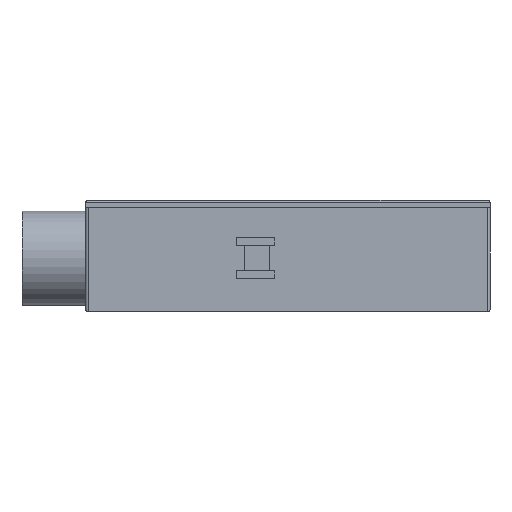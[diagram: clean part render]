
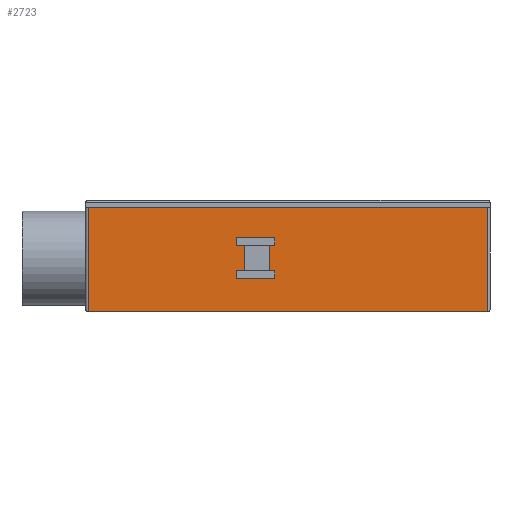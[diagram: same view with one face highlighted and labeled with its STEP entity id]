
A CAD part, left-side view. The second image highlights one B-rep face of the part: STEP entity #2723.
In plain terms, the highlighted planar face has unit normal (-1, 0, 0).
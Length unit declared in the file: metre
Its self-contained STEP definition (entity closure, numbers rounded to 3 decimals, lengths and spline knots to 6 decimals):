
#266=LINE('',#4233,#586);
#270=LINE('',#4241,#590);
#273=LINE('',#4248,#593);
#277=LINE('',#4256,#597);
#284=LINE('',#4271,#604);
#286=LINE('',#4274,#606);
#287=LINE('',#4277,#607);
#288=LINE('',#4279,#608);
#289=LINE('',#4281,#609);
#290=LINE('',#4282,#610);
#291=LINE('',#4284,#611);
#292=LINE('',#4285,#612);
#293=LINE('',#4287,#613);
#294=LINE('',#4288,#614);
#295=LINE('',#4289,#615);
#296=LINE('',#4291,#616);
#586=VECTOR('',#3424,1.);
#590=VECTOR('',#3428,1.);
#593=VECTOR('',#3433,1.);
#597=VECTOR('',#3437,1.);
#604=VECTOR('',#3446,1.);
#606=VECTOR('',#3450,1.);
#607=VECTOR('',#3451,1.);
#608=VECTOR('',#3452,1.);
#609=VECTOR('',#3453,1.);
#610=VECTOR('',#3454,1.);
#611=VECTOR('',#3455,1.);
#612=VECTOR('',#3456,1.);
#613=VECTOR('',#3457,1.);
#614=VECTOR('',#3458,1.);
#615=VECTOR('',#3459,1.);
#616=VECTOR('',#3460,1.);
#1180=ORIENTED_EDGE('',*,*,#1722,.T.);
#1181=ORIENTED_EDGE('',*,*,#1723,.T.);
#1182=ORIENTED_EDGE('',*,*,#1724,.F.);
#1183=ORIENTED_EDGE('',*,*,#1725,.T.);
#1184=ORIENTED_EDGE('',*,*,#1726,.F.);
#1185=ORIENTED_EDGE('',*,*,#1706,.T.);
#1186=ORIENTED_EDGE('',*,*,#1727,.T.);
#1187=ORIENTED_EDGE('',*,*,#1709,.T.);
#1188=ORIENTED_EDGE('',*,*,#1720,.T.);
#1189=ORIENTED_EDGE('',*,*,#1728,.F.);
#1190=ORIENTED_EDGE('',*,*,#1729,.F.);
#1191=ORIENTED_EDGE('',*,*,#1713,.T.);
#1192=ORIENTED_EDGE('',*,*,#1730,.F.);
#1193=ORIENTED_EDGE('',*,*,#1702,.T.);
#1194=ORIENTED_EDGE('',*,*,#1731,.T.);
#1195=ORIENTED_EDGE('',*,*,#1732,.F.);
#1702=EDGE_CURVE('',#2012,#2011,#266,.T.);
#1706=EDGE_CURVE('',#2009,#2015,#270,.T.);
#1709=EDGE_CURVE('',#2019,#2018,#273,.T.);
#1713=EDGE_CURVE('',#2023,#2022,#277,.T.);
#1720=EDGE_CURVE('',#2018,#2029,#284,.T.);
#1722=EDGE_CURVE('',#2030,#2031,#286,.T.);
#1723=EDGE_CURVE('',#2031,#2032,#287,.F.);
#1724=EDGE_CURVE('',#2033,#2032,#288,.T.);
#1725=EDGE_CURVE('',#2033,#2030,#289,.T.);
#1726=EDGE_CURVE('',#2009,#2034,#290,.T.);
#1727=EDGE_CURVE('',#2015,#2019,#291,.T.);
#1728=EDGE_CURVE('',#2035,#2029,#292,.T.);
#1729=EDGE_CURVE('',#2023,#2035,#293,.T.);
#1730=EDGE_CURVE('',#2012,#2022,#294,.T.);
#1731=EDGE_CURVE('',#2011,#2036,#295,.T.);
#1732=EDGE_CURVE('',#2034,#2036,#296,.T.);
#2009=VERTEX_POINT('',#4228);
#2011=VERTEX_POINT('',#4232);
#2012=VERTEX_POINT('',#4234);
#2015=VERTEX_POINT('',#4240);
#2018=VERTEX_POINT('',#4247);
#2019=VERTEX_POINT('',#4249);
#2022=VERTEX_POINT('',#4255);
#2023=VERTEX_POINT('',#4257);
#2029=VERTEX_POINT('',#4270);
#2030=VERTEX_POINT('',#4275);
#2031=VERTEX_POINT('',#4276);
#2032=VERTEX_POINT('',#4278);
#2033=VERTEX_POINT('',#4280);
#2034=VERTEX_POINT('',#4283);
#2035=VERTEX_POINT('',#4286);
#2036=VERTEX_POINT('',#4290);
#2264=EDGE_LOOP('',(#1180,#1181,#1182,#1183));
#2265=EDGE_LOOP('',(#1184,#1185,#1186,#1187,#1188,#1189,#1190,#1191,#1192,
#1193,#1194,#1195));
#2448=FACE_BOUND('',#2264,.T.);
#2449=FACE_BOUND('',#2265,.T.);
#2599=PLANE('',#2917);
#2723=ADVANCED_FACE('',(#2448,#2449),#2599,.F.);
#2917=AXIS2_PLACEMENT_3D('',#4273,#3448,#3449);
#3424=DIRECTION('',(0.,1.,0.));
#3428=DIRECTION('',(0.,1.,0.));
#3433=DIRECTION('',(0.,-1.,0.));
#3437=DIRECTION('',(0.,-1.,0.));
#3446=DIRECTION('',(0.,0.,-1.));
#3448=DIRECTION('',(1.,0.,0.));
#3449=DIRECTION('',(0.,0.,-1.));
#3450=DIRECTION('',(0.,-1.,0.));
#3451=DIRECTION('',(0.,0.,-1.));
#3452=DIRECTION('',(0.,-1.,0.));
#3453=DIRECTION('',(0.,0.,-1.));
#3454=DIRECTION('',(0.,0.,1.));
#3455=DIRECTION('',(0.,0.,-1.));
#3456=DIRECTION('',(0.,-1.,0.));
#3457=DIRECTION('',(0.,0.,-1.));
#3458=DIRECTION('',(0.,0.,-1.));
#3459=DIRECTION('',(0.,0.,1.));
#3460=DIRECTION('',(0.,1.,0.));
#4228=CARTESIAN_POINT('',(-0.043277,0.039957,0.025204));
#4232=CARTESIAN_POINT('',(-0.043277,0.054957,0.025204));
#4233=CARTESIAN_POINT('',(-0.043277,0.047457,0.025204));
#4234=CARTESIAN_POINT('',(-0.043277,0.051914,0.025204));
#4240=CARTESIAN_POINT('',(-0.043277,0.041914,0.025204));
#4241=CARTESIAN_POINT('',(-0.043277,0.047457,0.025204));
#4247=CARTESIAN_POINT('',(-0.043277,0.039957,0.015204));
#4248=CARTESIAN_POINT('',(-0.043277,0.047457,0.015204));
#4249=CARTESIAN_POINT('',(-0.043277,0.041914,0.015204));
#4255=CARTESIAN_POINT('',(-0.043277,0.051914,0.015204));
#4256=CARTESIAN_POINT('',(-0.043277,0.047457,0.015204));
#4257=CARTESIAN_POINT('',(-0.043277,0.054957,0.015204));
#4270=CARTESIAN_POINT('',(-0.043277,0.039957,0.012204));
#4271=CARTESIAN_POINT('',(-0.043277,0.039957,0.013704));
#4273=CARTESIAN_POINT('',(-0.043277,0.0348,0.04));
#4274=CARTESIAN_POINT('',(-0.043277,0.0348,-0.001));
#4275=CARTESIAN_POINT('',(-0.043277,0.1133,-0.001));
#4276=CARTESIAN_POINT('',(-0.043277,-0.0437,-0.001));
#4277=CARTESIAN_POINT('',(-0.043277,-0.0437,0.04));
#4278=CARTESIAN_POINT('',(-0.043277,-0.0437,0.04));
#4279=CARTESIAN_POINT('',(-0.043277,0.0348,0.04));
#4280=CARTESIAN_POINT('',(-0.043277,0.1133,0.04));
#4281=CARTESIAN_POINT('',(-0.043277,0.1133,-0.001));
#4282=CARTESIAN_POINT('',(-0.043277,0.039957,0.026704));
#4283=CARTESIAN_POINT('',(-0.043277,0.039957,0.028204));
#4284=CARTESIAN_POINT('',(-0.043277,0.041914,0.020204));
#4285=CARTESIAN_POINT('',(-0.043277,0.047457,0.012204));
#4286=CARTESIAN_POINT('',(-0.043277,0.054957,0.012204));
#4287=CARTESIAN_POINT('',(-0.043277,0.054957,0.013704));
#4288=CARTESIAN_POINT('',(-0.043277,0.051914,0.020204));
#4289=CARTESIAN_POINT('',(-0.043277,0.054957,0.026704));
#4290=CARTESIAN_POINT('',(-0.043277,0.054957,0.028204));
#4291=CARTESIAN_POINT('',(-0.043277,0.047457,0.028204));
